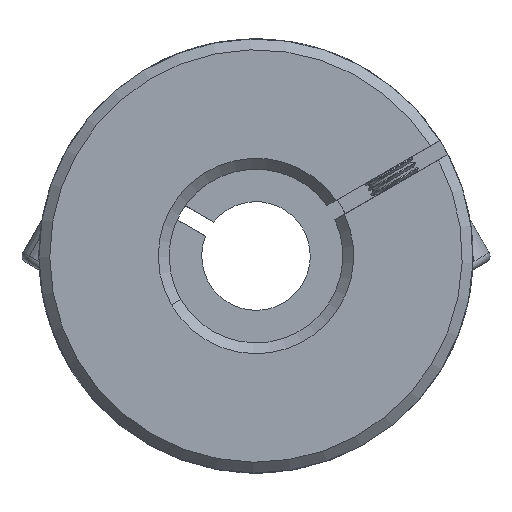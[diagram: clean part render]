
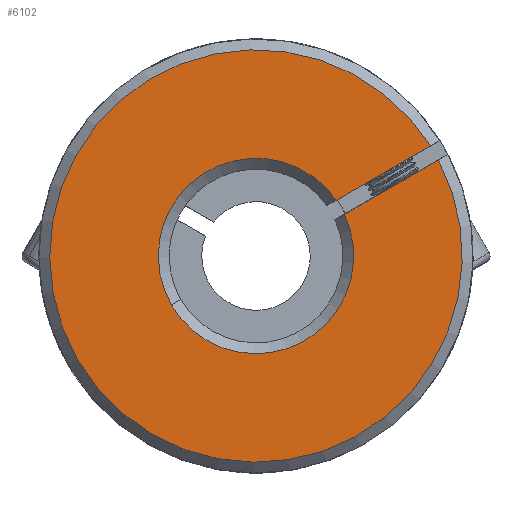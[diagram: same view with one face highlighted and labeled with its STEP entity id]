
A CAD part, front view. The second image highlights one B-rep face of the part: STEP entity #6102.
In plain terms, the highlighted planar face has unit normal (0, -1, 0).
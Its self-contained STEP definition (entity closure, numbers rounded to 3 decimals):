
#969 = CARTESIAN_POINT ( 'NONE',  ( -1.447, -31.239, 40. ) ) ;
#1626 = ORIENTED_EDGE ( 'NONE', *, *, #13324, .T. ) ;
#2322 = EDGE_CURVE ( 'NONE', #6113, #3781, #13501, .T. ) ;
#2631 = EDGE_CURVE ( 'NONE', #2781, #5005, #9983, .T. ) ;
#2781 = VERTEX_POINT ( 'NONE', #5404 ) ;
#3483 = CARTESIAN_POINT ( 'NONE',  ( -9.24, -31.239, 35.498 ) ) ;
#3595 = EDGE_LOOP ( 'NONE', ( #8917, #6184, #8744, #3927, #1626 ) ) ;
#3721 = DIRECTION ( 'NONE',  ( 0., 1., 0. ) ) ;
#3743 = VECTOR ( 'NONE', #8425, 1000. ) ;
#3781 = VERTEX_POINT ( 'NONE', #3483 ) ;
#3927 = ORIENTED_EDGE ( 'NONE', *, *, #2631, .F. ) ;
#4769 = PLANE ( 'NONE',  #11525 ) ;
#5005 = VERTEX_POINT ( 'NONE', #11247 ) ;
#5024 = VERTEX_POINT ( 'NONE', #10300 ) ;
#5057 = DIRECTION ( 'NONE',  ( 0., -1., 0. ) ) ;
#5404 = CARTESIAN_POINT ( 'NONE',  ( 14.616, -31.239, 50.147 ) ) ;
#5423 = LINE ( 'NONE', #6733, #6288 ) ;
#5947 = DIRECTION ( 'NONE',  ( 0.5, 0., -0.866 ) ) ;
#5993 = AXIS2_PLACEMENT_3D ( 'NONE', #7951, #9151, #9194 ) ;
#6102 = ADVANCED_FACE ( 'NONE', ( #7473 ), #4769, .F. ) ;
#6113 = VERTEX_POINT ( 'NONE', #9333 ) ;
#6184 = ORIENTED_EDGE ( 'NONE', *, *, #2322, .T. ) ;
#6243 = DIRECTION ( 'NONE',  ( 0., 1., 0. ) ) ;
#6288 = VECTOR ( 'NONE', #7655, 1000. ) ;
#6458 = AXIS2_PLACEMENT_3D ( 'NONE', #969, #6243, #10601 ) ;
#6733 = CARTESIAN_POINT ( 'NONE',  ( 5.825, -31.239, 43.335 ) ) ;
#7380 = EDGE_CURVE ( 'NONE', #6113, #5024, #5423, .T. ) ;
#7473 = FACE_OUTER_BOUND ( 'NONE', #3595, .T. ) ;
#7655 = DIRECTION ( 'NONE',  ( 0.866, 0., 0.5 ) ) ;
#7910 = AXIS2_PLACEMENT_3D ( 'NONE', #10412, #5057, #12750 ) ;
#7951 = CARTESIAN_POINT ( 'NONE',  ( -1.447, -31.239, 40. ) ) ;
#8425 = DIRECTION ( 'NONE',  ( -0.866, 0., -0.5 ) ) ;
#8744 = ORIENTED_EDGE ( 'NONE', *, *, #10959, .T. ) ;
#8917 = ORIENTED_EDGE ( 'NONE', *, *, #7380, .F. ) ;
#9151 = DIRECTION ( 'NONE',  ( 0., 1., 0. ) ) ;
#9194 = DIRECTION ( 'NONE',  ( 0.5, 0., -0.866 ) ) ;
#9333 = CARTESIAN_POINT ( 'NONE',  ( 6.694, -31.239, 43.837 ) ) ;
#9612 = CARTESIAN_POINT ( 'NONE',  ( 5.074, -31.239, 44.634 ) ) ;
#9983 = LINE ( 'NONE', #9612, #3743 ) ;
#10300 = CARTESIAN_POINT ( 'NONE',  ( 15.367, -31.239, 48.848 ) ) ;
#10412 = CARTESIAN_POINT ( 'NONE',  ( -1.447, -31.239, 40. ) ) ;
#10601 = DIRECTION ( 'NONE',  ( 0.5, 0., -0.866 ) ) ;
#10959 = EDGE_CURVE ( 'NONE', #3781, #5005, #11088, .T. ) ;
#11088 = CIRCLE ( 'NONE', #6458, 9. ) ;
#11167 = CARTESIAN_POINT ( 'NONE',  ( 52.98, -31.239, 45.743 ) ) ;
#11247 = CARTESIAN_POINT ( 'NONE',  ( 5.943, -31.239, 45.136 ) ) ;
#11525 = AXIS2_PLACEMENT_3D ( 'NONE', #11167, #3721, #5947 ) ;
#12501 = CIRCLE ( 'NONE', #7910, 19. ) ;
#12750 = DIRECTION ( 'NONE',  ( 0.5, 0., -0.866 ) ) ;
#13324 = EDGE_CURVE ( 'NONE', #2781, #5024, #12501, .T. ) ;
#13501 = CIRCLE ( 'NONE', #5993, 9. ) ;
